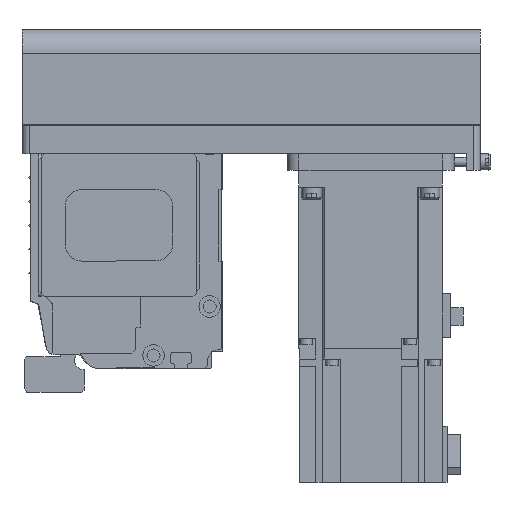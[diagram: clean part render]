
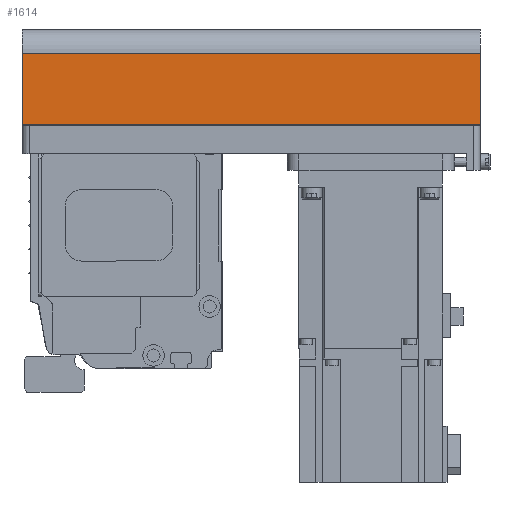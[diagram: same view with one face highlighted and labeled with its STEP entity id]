
A CAD part, left-side view. The second image highlights one B-rep face of the part: STEP entity #1614.
In plain terms, the highlighted planar face has unit normal (-1, 0, 0) as drawn and (0, -1, 0) by its records, which use the part's own axes.
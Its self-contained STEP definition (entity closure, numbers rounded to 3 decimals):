
#1614 = ADVANCED_FACE( '', ( #3634 ), #3635, .T. );
#3634 = FACE_OUTER_BOUND( '', #6122, .T. );
#3635 = PLANE( '', #6123 );
#6122 = EDGE_LOOP( '', ( #10505, #10506, #10507, #10508 ) );
#6123 = AXIS2_PLACEMENT_3D( '', #10509, #10510, #10511 );
#10505 = ORIENTED_EDGE( '', *, *, #14979, .F. );
#10506 = ORIENTED_EDGE( '', *, *, #15068, .F. );
#10507 = ORIENTED_EDGE( '', *, *, #15600, .T. );
#10508 = ORIENTED_EDGE( '', *, *, #15601, .T. );
#10509 = CARTESIAN_POINT( '', ( -192., -40., -12.1 ) );
#10510 = DIRECTION( '', ( 0., -1., 0. ) );
#10511 = DIRECTION( '', ( 0., 0., -1. ) );
#14979 = EDGE_CURVE( '', #18210, #18212, #18213, .T. );
#15068 = EDGE_CURVE( '', #18353, #18210, #18355, .T. );
#15600 = EDGE_CURVE( '', #18353, #19133, #19134, .T. );
#15601 = EDGE_CURVE( '', #19133, #18212, #19135, .T. );
#18210 = VERTEX_POINT( '', #22521 );
#18212 = VERTEX_POINT( '', #22524 );
#18213 = LINE( '', #22525, #22526 );
#18353 = VERTEX_POINT( '', #22719 );
#18355 = LINE( '', #22722, #22723 );
#19133 = VERTEX_POINT( '', #23759 );
#19134 = LINE( '', #23760, #23761 );
#19135 = LINE( '', #23762, #23763 );
#22521 = CARTESIAN_POINT( '', ( 0., -40., -12.1 ) );
#22524 = CARTESIAN_POINT( '', ( 0., -40., -42. ) );
#22525 = CARTESIAN_POINT( '', ( 0., -40., -12.1 ) );
#22526 = VECTOR( '', #26504, 1000. );
#22719 = CARTESIAN_POINT( '', ( -192., -40., -12.1 ) );
#22722 = CARTESIAN_POINT( '', ( -192., -40., -12.1 ) );
#22723 = VECTOR( '', #26601, 1000. );
#23759 = CARTESIAN_POINT( '', ( -192., -40., -42. ) );
#23760 = CARTESIAN_POINT( '', ( -192., -40., -12.1 ) );
#23761 = VECTOR( '', #27253, 1000. );
#23762 = CARTESIAN_POINT( '', ( -192., -40., -42. ) );
#23763 = VECTOR( '', #27254, 1000. );
#26504 = DIRECTION( '', ( 0., 0., -1. ) );
#26601 = DIRECTION( '', ( 1., 0., 0. ) );
#27253 = DIRECTION( '', ( 0., 0., -1. ) );
#27254 = DIRECTION( '', ( 1., 0., 0. ) );
